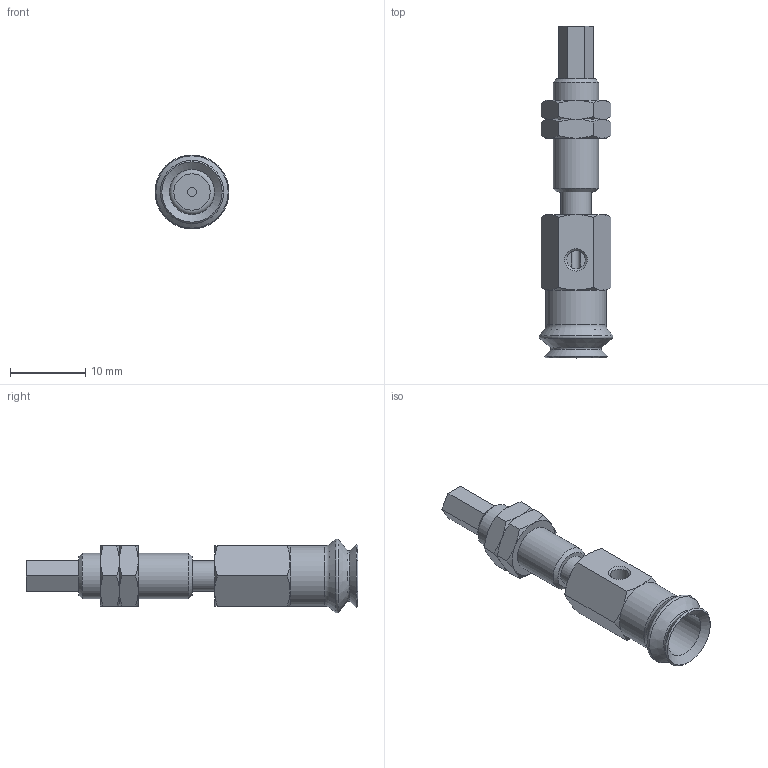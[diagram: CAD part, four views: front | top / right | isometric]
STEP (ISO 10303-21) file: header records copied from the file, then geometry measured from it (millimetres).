
FILE_DESCRIPTION(('STEP AP203'),'1');
FILE_NAME('.stp','2025-04-23T07:09:51',(' '),(' '),'Spatial InterOp 3D',' ',' ');
FILE_SCHEMA(('CONFIG_CONTROL_DESIGN'));
Length unit declared in the file: millimetre
Products named in the file (6): BNABPJYS-8-3-※; CONNECTOR_S-8-3; NUT-NAPJ-8-3-s; NAPJTS-8-3-FBODY; NAPJTS-8-3-MBODY; BPJG-8-※
Assembly tree (6 placements, depth 2):
  BNABPJYS-8-3-※
    CONNECTOR_S-8-3
    NUT-NAPJ-8-3-s  x2
    NAPJTS-8-3-FBODY
    NAPJTS-8-3-MBODY
    BPJG-8-※
Bounding box: 9.8 x 44 x 9.8 mm (x, y, z)
Volume: 1533.3 mm3; surface area: 2330.8 mm2
Topology: 6 solids, 6 shells, 129 faces, 275 edges, 163 vertices
Faces by surface type: plane 55, cone 53, cylinder 14, torus 7
Full cylindrical faces by diameter (mm): 1.2 x1, 2.459 x2, 3 x1, 4 x4, 5.188 x2, 6 x3, 8 x1
Entity records: 3130 total; most frequent: CARTESIAN_POINT 747, DIRECTION 436, ORIENTED_EDGE 374, AXIS2_PLACEMENT_3D 190, EDGE_CURVE 187, EDGE_LOOP 154, VERTEX_POINT 129, FACE_OUTER_BOUND 126
